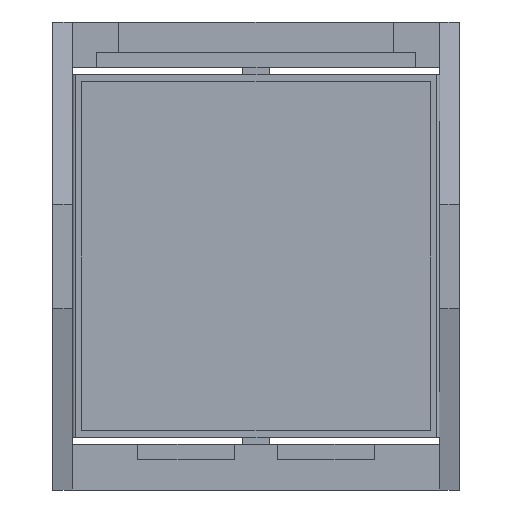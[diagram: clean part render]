
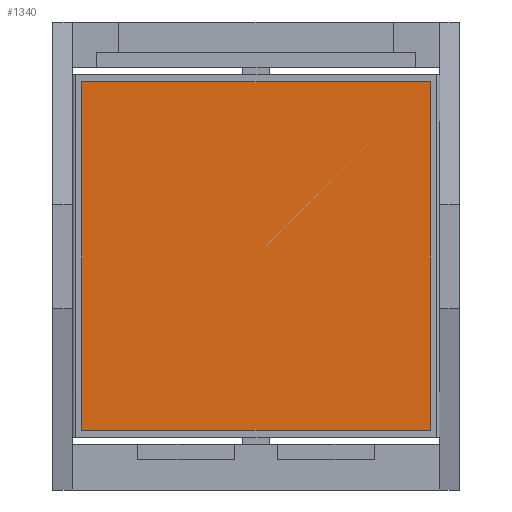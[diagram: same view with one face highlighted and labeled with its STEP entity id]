
A CAD part, front view. The second image highlights one B-rep face of the part: STEP entity #1340.
In plain terms, the highlighted planar face has unit normal (0, -1, 0).
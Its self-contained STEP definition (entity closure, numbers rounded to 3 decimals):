
#160 = CARTESIAN_POINT ( 'NONE',  ( 12.7, -0.127, -12.7 ) ) ;
#583 = CARTESIAN_POINT ( 'NONE',  ( -12.7, -0.127, -12.7 ) ) ;
#645 = ORIENTED_EDGE ( 'NONE', *, *, #4205, .F. ) ;
#711 = CARTESIAN_POINT ( 'NONE',  ( -12.7, -0.127, 12.7 ) ) ;
#746 = DIRECTION ( 'NONE',  ( 1., 0., 0. ) ) ;
#849 = DIRECTION ( 'NONE',  ( 0., 0., -1. ) ) ;
#1008 = CARTESIAN_POINT ( 'NONE',  ( 12.7, -0.127, -12.7 ) ) ;
#1340 = ADVANCED_FACE ( 'NONE', ( #5198 ), #4557, .F. ) ;
#1417 = AXIS2_PLACEMENT_3D ( 'NONE', #5278, #6424, #3986 ) ;
#1798 = EDGE_CURVE ( 'NONE', #3544, #6804, #2875, .T. ) ;
#1961 = ORIENTED_EDGE ( 'NONE', *, *, #4834, .F. ) ;
#2284 = CARTESIAN_POINT ( 'NONE',  ( 12.7, -0.127, 12.7 ) ) ;
#2300 = ORIENTED_EDGE ( 'NONE', *, *, #1798, .F. ) ;
#2508 = LINE ( 'NONE', #5629, #7698 ) ;
#2875 = LINE ( 'NONE', #583, #7192 ) ;
#3010 = VERTEX_POINT ( 'NONE', #5723 ) ;
#3544 = VERTEX_POINT ( 'NONE', #1008 ) ;
#3986 = DIRECTION ( 'NONE',  ( 0., 0., 1. ) ) ;
#4205 = EDGE_CURVE ( 'NONE', #6804, #3010, #2508, .T. ) ;
#4262 = EDGE_LOOP ( 'NONE', ( #645, #2300, #1961, #5857 ) ) ;
#4427 = DIRECTION ( 'NONE',  ( 0., 0., 1. ) ) ;
#4557 = PLANE ( 'NONE',  #1417 ) ;
#4583 = EDGE_CURVE ( 'NONE', #3010, #7974, #6330, .T. ) ;
#4834 = EDGE_CURVE ( 'NONE', #7974, #3544, #5164, .T. ) ;
#5164 = LINE ( 'NONE', #160, #6971 ) ;
#5198 = FACE_OUTER_BOUND ( 'NONE', #4262, .T. ) ;
#5278 = CARTESIAN_POINT ( 'NONE',  ( -12.7, -0.127, 12.7 ) ) ;
#5509 = VECTOR ( 'NONE', #746, 1000. ) ;
#5629 = CARTESIAN_POINT ( 'NONE',  ( -12.7, -0.127, -12.7 ) ) ;
#5723 = CARTESIAN_POINT ( 'NONE',  ( -12.7, -0.127, 12.7 ) ) ;
#5857 = ORIENTED_EDGE ( 'NONE', *, *, #4583, .F. ) ;
#6330 = LINE ( 'NONE', #711, #5509 ) ;
#6424 = DIRECTION ( 'NONE',  ( 0., 1., 0. ) ) ;
#6804 = VERTEX_POINT ( 'NONE', #7371 ) ;
#6971 = VECTOR ( 'NONE', #849, 1000. ) ;
#7192 = VECTOR ( 'NONE', #8078, 1000. ) ;
#7371 = CARTESIAN_POINT ( 'NONE',  ( -12.7, -0.127, -12.7 ) ) ;
#7698 = VECTOR ( 'NONE', #4427, 1000. ) ;
#7974 = VERTEX_POINT ( 'NONE', #2284 ) ;
#8078 = DIRECTION ( 'NONE',  ( -1., 0., 0. ) ) ;
